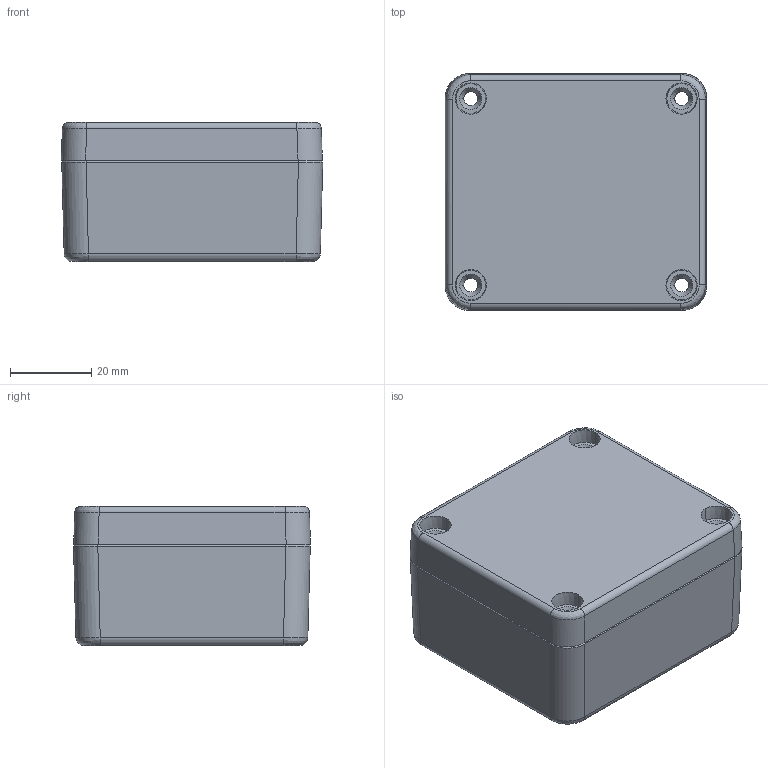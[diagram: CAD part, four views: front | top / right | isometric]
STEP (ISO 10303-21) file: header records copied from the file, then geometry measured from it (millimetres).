
FILE_DESCRIPTION (( 'STEP AP203' ), '1' );
FILE_NAME ('ALU ASSY 586434.STEP', '2024-08-27T07:02:19', ( '' ), ( '' ), 'SwSTEP 2.0', 'SolidWorks 2018', '' );
FILE_SCHEMA (( 'CONFIG_CONTROL_DESIGN' ));
Length unit declared in the file: millimetre
Products named in the file (3): ALU ASSY 586434; ALU BASE 586434; ALU LID 586434
Assembly tree (2 placements, depth 2):
  ALU ASSY 586434
    ALU BASE 586434
    ALU LID 586434
Bounding box: 64.48 x 58.43 x 34.3 mm (x, y, z)
Volume: 50452.3 mm3; surface area: 32573.9 mm2
Topology: 11 solids, 11 shells, 1023 faces, 2524 edges, 1525 vertices
Faces by surface type: bspline 582, plane 203, cylinder 142, cone 88, sphere 8
Entity records: 53554 total; most frequent: CARTESIAN_POINT 33477, ORIENTED_EDGE 5010, EDGE_CURVE 2505, DIRECTION 2418, VERTEX_POINT 1525, B_SPLINE_CURVE_WITH_KNOTS 1251, EDGE_LOOP 1070, FACE_OUTER_BOUND 1023
